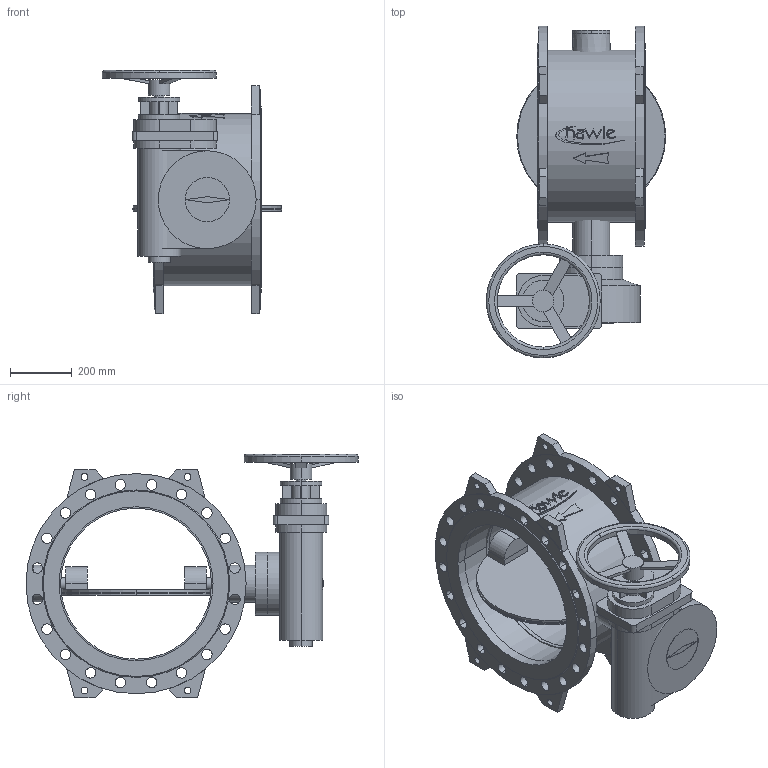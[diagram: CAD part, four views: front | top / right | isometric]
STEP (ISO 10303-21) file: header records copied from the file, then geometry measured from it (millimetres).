
FILE_DESCRIPTION(('STEP AP214'),'1');
FILE_NAME('S:/EK/USER/CAT6/3DHomepage_27-04-2012/neu_08-01-2013/9881K/9881K_PN16_DN500_7800.STP','2013-03-11T15:33:39',(' '),(' '),'Spatial InterOp 3D',' ',' ');
FILE_SCHEMA(('automotive_design'));
Length unit declared in the file: millimetre
Products named in the file (52): 3D-Objekt
Bounding box: 583 x 1078.5 x 790 mm (x, y, z)
Volume: 63063649.1 mm3; surface area: 4735380.1 mm2
Topology: 52 solids, 52 shells, 455 faces, 1046 edges, 698 vertices
Faces by surface type: plane 228, cylinder 215, cone 8, torus 4
Entity records: 18118 total; most frequent: DIRECTION 2536, CARTESIAN_POINT 2251, ORIENTED_EDGE 2092, EDGE_CURVE 1046, AXIS2_PLACEMENT_3D 983, VERTEX_POINT 698, EDGE_LOOP 572, LINE 570
